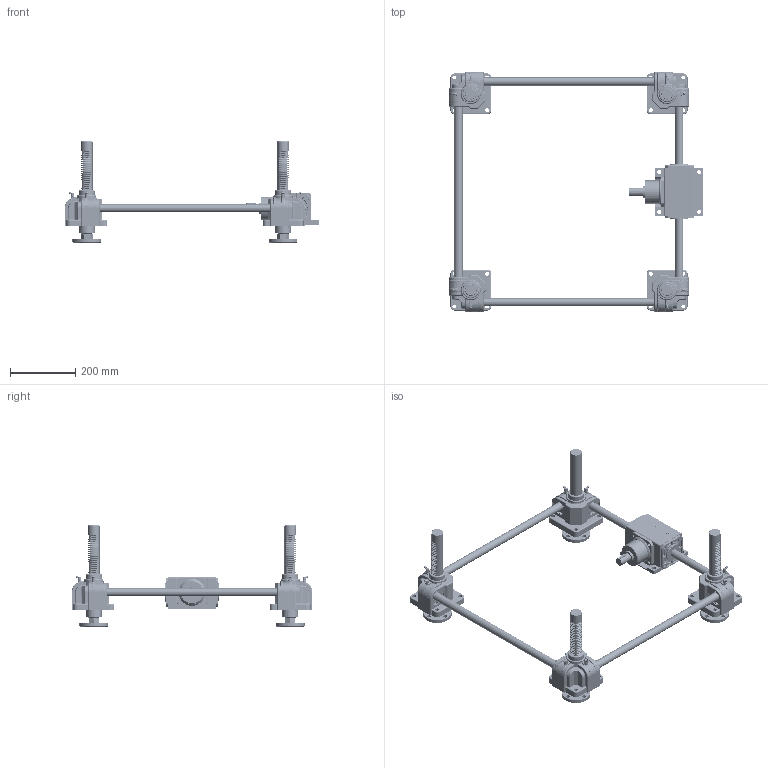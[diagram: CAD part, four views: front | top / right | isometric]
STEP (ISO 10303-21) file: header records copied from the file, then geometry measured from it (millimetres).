
FILE_DESCRIPTION(('STEP AP203'),'1');
FILE_NAME(').stp','2022-06-15T08:10:16',(' '),(' '),'Spatial InterOp 3D',' ',' ');
FILE_SCHEMA(('CONFIG_CONTROL_DESIGN'));
Length unit declared in the file: millimetre
Products named in the file (166): SPB1500FU-600x600-300-150ST; ASSEM1; Flange.1-Part; Flange.1; Joint.1; Nut.1; Flange.2-Part; Flange.2; Joint.2; Nut.2; Flange.3-Part; Flange.3; Joint.3; Nut.3; Flange.4-Part; Flange.4; Joint.4; Nut.4; Body.1-Part; SnapRing-55Pie; b6205zz; Nipple; Gear Box.1(NSP-1500); RJ05-4SCJ-610X600-100ST_CAP; LABEL-B.1; ___; 파트18; __ ; Body.2-Part; Gear Box.2(NSP-1500); Body.3-Part; Gear Box.3(NSP-1500); Body.4-Part; Gear Box.4(NSP-1500); Shaft.1; Shaft.2; BEVEL BOX-C; Part1.1; RJ10 BB BOX COVER_L.1; RJ10 BB BOX COVER_R.1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
Assembly tree (167 placements, depth 6):
  SPB1500FU-600x600-300-150ST
    ASSEM1
    (unnamed)
    (unnamed)
    (unnamed)
    Flange.1-Part
      Flange.1
      Joint.1
      Nut.1
    Flange.2-Part
      Flange.2
      Joint.2
      Nut.2
    Flange.3-Part
      Flange.3
      Joint.3
      Nut.3
    Flange.4-Part
      Flange.4
      Joint.4
      Nut.4
    Body.1-Part
      SnapRing-55Pie
      SnapRing-55Pie
      b6205zz
      b6205zz
      Nipple
      Nipple
      Gear Box.1(NSP-1500)
      __ 
        ___
          RJ05-4SCJ-610X600-100ST_CAP
            LABEL-B.1
          파트18
    Body.2-Part
      Nipple
      Nipple
      SnapRing-55Pie
      SnapRing-55Pie
      b6205zz
      b6205zz
      Gear Box.2(NSP-1500)
      __ 
        ___
          RJ05-4SCJ-610X600-100ST_CAP
            LABEL-B.1
          파트18
    Body.3-Part
      Nipple
      Nipple
      SnapRing-55Pie
      SnapRing-55Pie
      b6205zz
      b6205zz
      Gear Box.3(NSP-1500)
      __ 
        ___
          RJ05-4SCJ-610X600-100ST_CAP
            LABEL-B.1
          파트18
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Bounding box: 778.41 x 735.32 x 310 mm (x, y, z)
Volume: 5390217 mm3; surface area: 1342966.7 mm2
Topology: 99 solids, 177 shells, 14447 faces, 40309 edges, 26175 vertices
Faces by surface type: plane 10252, cylinder 2175, torus 732, bspline 704, revolution 168, cone 158, extrusion 154, sphere 104
Full cylindrical faces by diameter (mm): 3.087 x16, 4.8 x8, 6.75 x12, 8 x8, 9.886 x8, 10 x8, 12 x36, 25 x28, 27 x4, 28 x8, 32.5 x16, 35 x4, 36 x4, 37 x4, 38 x4, 39 x12, 39.4 x4, 41 x8, 44 x4, 45 x4, 46.1 x16, 48 x4, 50 x12, 52 x24, 55 x8, 59 x4, 80 x1, 80.5 x3, 88 x4
Entity records: 512309 total; most frequent: CARTESIAN_POINT 146107, ORIENTED_EDGE 77392, DIRECTION 67186, EDGE_CURVE 39054, VECTOR 30476, LINE 30322, VERTEX_POINT 25717, AXIS2_PLACEMENT_3D 18271
